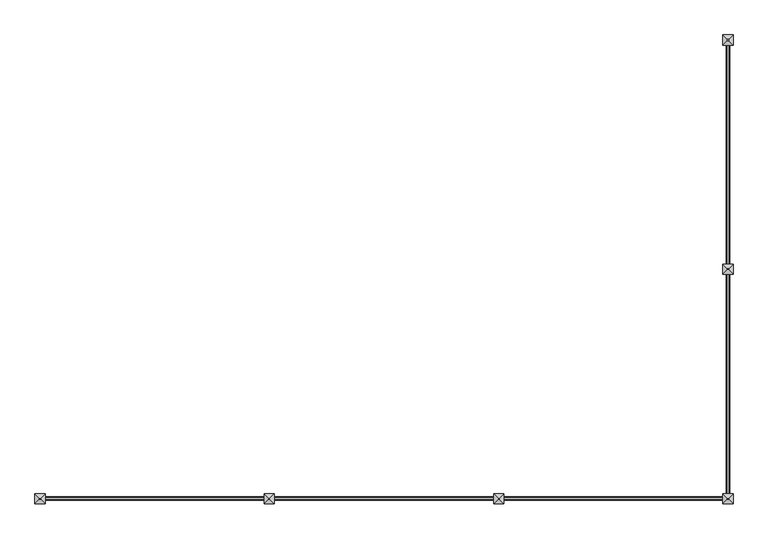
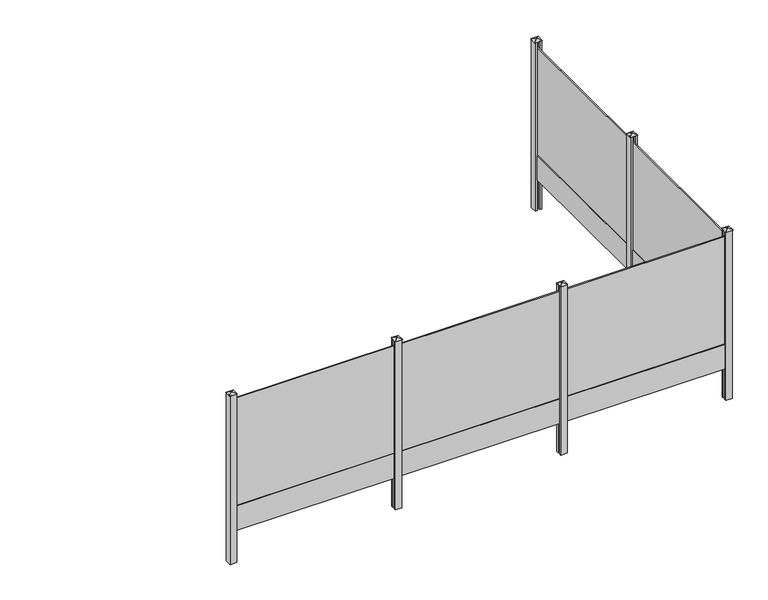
"""IFC4 building model written with IfcOpenShell, lengths in millimetres: railing geometry, Mehat - Railing - Plaque de Soubassement - Ardoise pour clôture rigide - 250x40x3.8 cm."""

from ifc_helpers import new_model, si_unit, frame, origin, origin_with_axes, place, context, project, spatial, polyline, outline, extrude, faceted_brep, source, transform, mapped, element, save


def railing_9046152f(model_context):
    return source(origin(), model_context, "Body", "SolidModel", [
        extrude(outline(polyline([(-27163.7483484, -20967.4943936), (-27180.7483484, -20967.4943936), (-27180.7483484, -18467.4943936), (-27163.7483484, -18467.4943936), (-27163.7483484, -20967.4943936)])), frame((0.0, 0.0, 400.0), z_axis=(0.0, 0.0, 1.0), x_axis=(1.0, 0.0, 0.0)), (0.0, 0.0, 1.0), 1750.0),
        extrude(outline(polyline([(-27153.2483484, -20967.4943936), (-27191.2483484, -20967.4943936), (-27191.2483484, -18467.4943936), (-27153.2483484, -18467.4943936), (-27153.2483484, -20967.4943936)])), origin_with_axes(), (0.0, 0.0, 1.0), 400.0),
        extrude(outline(polyline([(-27122.2483484, -21042.4943936), (-27153.2483484, -21042.4943936), (-27153.2483484, -21017.4943936), (-27191.2483484, -21017.4943936), (-27191.2483484, -21042.4943936), (-27222.2483484, -21042.4943936), (-27222.2483484, -20942.4943936), (-27191.2483484, -20942.4943936), (-27191.2483484, -20967.4943936), (-27153.2483484, -20967.4943936), (-27153.2483484, -20942.4943936), (-27122.2483484, -20942.4943936), (-27122.2483484, -21042.4943936)])), frame((0.0, 0.0, -500.0), z_axis=(0.0, 0.0, 1.0), x_axis=(1.0, 0.0, 0.0)), (0.0, 0.0, 1.0), 2750.0),
        faceted_brep([(-27178.6528945, -20986.1443936, 2275.4), (-27178.6528945, -20998.8443936, 2275.4), (-27165.9528945, -20998.8443936, 2275.4), (-27165.9528945, -20986.1443936, 2275.4), (-27228.5983484, -20936.1443936, 2250.0), (-27115.8983484, -20936.1443936, 2250.0), (-27115.8983484, -21048.8443936, 2250.0), (-27228.5983484, -21048.8443936, 2250.0)], [[[0, 1, 2, 3]], [[4, 5, 6, 7]], [[4, 0, 3, 5]], [[5, 3, 2, 6]], [[6, 2, 1, 7]], [[7, 1, 0, 4]]]),
        extrude(outline(polyline([(-27163.7483484, -23517.4943936), (-27180.7483484, -23517.4943936), (-27180.7483484, -21017.4943936), (-27163.7483484, -21017.4943936), (-27163.7483484, -23517.4943936)])), frame((0.0, 0.0, 400.0), z_axis=(0.0, 0.0, 1.0), x_axis=(1.0, 0.0, 0.0)), (0.0, 0.0, 1.0), 1750.0),
        extrude(outline(polyline([(-27153.2483484, -23517.4943936), (-27191.2483484, -23517.4943936), (-27191.2483484, -21017.4943936), (-27153.2483484, -21017.4943936), (-27153.2483484, -23517.4943936)])), origin_with_axes(), (0.0, 0.0, 1.0), 400.0),
        extrude(outline(polyline([(-29697.2483484, -23550.9943936), (-29697.2483484, -23533.9943936), (-27197.2483484, -23533.9943936), (-27197.2483484, -23550.9943936), (-29697.2483484, -23550.9943936)])), frame((0.0, 0.0, 400.0), z_axis=(0.0, 0.0, 1.0), x_axis=(1.0, 0.0, 0.0)), (0.0, 0.0, 1.0), 1750.0),
        extrude(outline(polyline([(-29697.2483484, -23561.4943936), (-29697.2483484, -23523.4943936), (-27197.2483484, -23523.4943936), (-27197.2483484, -23561.4943936), (-29697.2483484, -23561.4943936)])), origin_with_axes(), (0.0, 0.0, 1.0), 400.0),
        extrude(outline(polyline([(-29772.2483484, -23592.4943936), (-29772.2483484, -23561.4943936), (-29747.2483484, -23561.4943936), (-29747.2483484, -23523.4943936), (-29772.2483484, -23523.4943936), (-29772.2483484, -23492.4943936), (-29672.2483484, -23492.4943936), (-29672.2483484, -23523.4943936), (-29697.2483484, -23523.4943936), (-29697.2483484, -23561.4943936), (-29672.2483484, -23561.4943936), (-29672.2483484, -23592.4943936), (-29772.2483484, -23592.4943936)])), frame((0.0, 0.0, -500.0), z_axis=(0.0, 0.0, 1.0), x_axis=(1.0, 0.0, 0.0)), (0.0, 0.0, 1.0), 2750.0),
        faceted_brep([(-29715.8983484, -23536.0898475, 2275.4), (-29728.5983484, -23536.0898475, 2275.4), (-29728.5983484, -23548.7898475, 2275.4), (-29715.8983484, -23548.7898475, 2275.4), (-29665.8983484, -23486.1443936, 2250.0), (-29665.8983484, -23598.8443936, 2250.0), (-29778.5983484, -23598.8443936, 2250.0), (-29778.5983484, -23486.1443936, 2250.0)], [[[0, 1, 2, 3]], [[4, 5, 6, 7]], [[4, 0, 3, 5]], [[5, 3, 2, 6]], [[6, 2, 1, 7]], [[7, 1, 0, 4]]]),
        extrude(outline(polyline([(-32247.2483484, -23550.9943936), (-32247.2483484, -23533.9943936), (-29747.2483484, -23533.9943936), (-29747.2483484, -23550.9943936), (-32247.2483484, -23550.9943936)])), frame((0.0, 0.0, 400.0), z_axis=(0.0, 0.0, 1.0), x_axis=(1.0, 0.0, 0.0)), (0.0, 0.0, 1.0), 1750.0),
        extrude(outline(polyline([(-32247.2483484, -23561.4943936), (-32247.2483484, -23523.4943936), (-29747.2483484, -23523.4943936), (-29747.2483484, -23561.4943936), (-32247.2483484, -23561.4943936)])), origin_with_axes(), (0.0, 0.0, 1.0), 400.0),
        extrude(outline(polyline([(-32322.2483484, -23592.4943936), (-32322.2483484, -23561.4943936), (-32297.2483484, -23561.4943936), (-32297.2483484, -23523.4943936), (-32322.2483484, -23523.4943936), (-32322.2483484, -23492.4943936), (-32222.2483484, -23492.4943936), (-32222.2483484, -23523.4943936), (-32247.2483484, -23523.4943936), (-32247.2483484, -23561.4943936), (-32222.2483484, -23561.4943936), (-32222.2483484, -23592.4943936), (-32322.2483484, -23592.4943936)])), frame((0.0, 0.0, -500.0), z_axis=(0.0, 0.0, 1.0), x_axis=(1.0, 0.0, 0.0)), (0.0, 0.0, 1.0), 2750.0),
        faceted_brep([(-32265.8983484, -23536.0898475, 2275.4), (-32278.5983484, -23536.0898475, 2275.4), (-32278.5983484, -23548.7898475, 2275.4), (-32265.8983484, -23548.7898475, 2275.4), (-32215.8983484, -23486.1443936, 2250.0), (-32215.8983484, -23598.8443936, 2250.0), (-32328.5983484, -23598.8443936, 2250.0), (-32328.5983484, -23486.1443936, 2250.0)], [[[0, 1, 2, 3]], [[4, 5, 6, 7]], [[4, 0, 3, 5]], [[5, 3, 2, 6]], [[6, 2, 1, 7]], [[7, 1, 0, 4]]]),
        extrude(outline(polyline([(-34797.2483484, -23550.9943936), (-34797.2483484, -23533.9943936), (-32297.2483484, -23533.9943936), (-32297.2483484, -23550.9943936), (-34797.2483484, -23550.9943936)])), frame((0.0, 0.0, 400.0), z_axis=(0.0, 0.0, 1.0), x_axis=(1.0, 0.0, 0.0)), (0.0, 0.0, 1.0), 1750.0),
        extrude(outline(polyline([(-34797.2483484, -23561.4943936), (-34797.2483484, -23523.4943936), (-32297.2483484, -23523.4943936), (-32297.2483484, -23561.4943936), (-34797.2483484, -23561.4943936)])), origin_with_axes(), (0.0, 0.0, 1.0), 400.0),
        extrude(outline(polyline([(-27222.2483484, -23592.4943936), (-27222.2483484, -23561.4943936), (-27197.2483484, -23561.4943936), (-27197.2483484, -23523.4943936), (-27222.2483484, -23523.4943936), (-27222.2483484, -23492.4943936), (-27191.2483484, -23492.4943936), (-27191.2483484, -23517.4943936), (-27153.2483484, -23517.4943936), (-27153.2483484, -23492.4943936), (-27122.2483484, -23492.4943936), (-27122.2483484, -23592.4943936), (-27222.2483484, -23592.4943936)])), frame((0.0, 0.0, -500.0), z_axis=(0.0, 0.0, 1.0), x_axis=(1.0, 0.0, 0.0)), (0.0, 0.0, 1.0), 2750.0),
        faceted_brep([(-27165.8983484, -23536.0898475, 2275.4), (-27178.5983484, -23536.0898475, 2275.4), (-27178.5983484, -23548.7898475, 2275.4), (-27165.8983484, -23548.7898475, 2275.4), (-27115.8983484, -23486.1443936, 2250.0), (-27115.8983484, -23598.8443936, 2250.0), (-27228.5983484, -23598.8443936, 2250.0), (-27228.5983484, -23486.1443936, 2250.0)], [[[0, 1, 2, 3]], [[4, 5, 6, 7]], [[4, 0, 3, 5]], [[5, 3, 2, 6]], [[6, 2, 1, 7]], [[7, 1, 0, 4]]]),
        extrude(outline(polyline([(-27122.2483484, -18492.4943936), (-27153.2483484, -18492.4943936), (-27153.2483484, -18467.4943936), (-27191.2483484, -18467.4943936), (-27191.2483484, -18492.4943936), (-27222.2483484, -18492.4943936), (-27222.2483484, -18392.4943936), (-27122.2483484, -18392.4943936), (-27122.2483484, -18492.4943936)])), frame((0.0, 0.0, -500.0), z_axis=(0.0, 0.0, 1.0), x_axis=(1.0, 0.0, 0.0)), (0.0, 0.0, 1.0), 2750.0),
        faceted_brep([(-27178.6528945, -18436.1443936, 2275.4), (-27178.6528945, -18448.8443936, 2275.4), (-27165.9528945, -18448.8443936, 2275.4), (-27165.9528945, -18436.1443936, 2275.4), (-27228.5983484, -18386.1443936, 2250.0), (-27115.8983484, -18386.1443936, 2250.0), (-27115.8983484, -18498.8443936, 2250.0), (-27228.5983484, -18498.8443936, 2250.0)], [[[0, 1, 2, 3]], [[4, 5, 6, 7]], [[4, 0, 3, 5]], [[5, 3, 2, 6]], [[6, 2, 1, 7]], [[7, 1, 0, 4]]]),
        extrude(outline(polyline([(-34872.2483484, -23592.4943936), (-34872.2483484, -23492.4943936), (-34772.2483484, -23492.4943936), (-34772.2483484, -23523.4943936), (-34797.2483484, -23523.4943936), (-34797.2483484, -23561.4943936), (-34772.2483484, -23561.4943936), (-34772.2483484, -23592.4943936), (-34872.2483484, -23592.4943936)])), frame((0.0, 0.0, -500.0), z_axis=(0.0, 0.0, 1.0), x_axis=(1.0, 0.0, 0.0)), (0.0, 0.0, 1.0), 2750.0),
        faceted_brep([(-34815.8983484, -23536.0898475, 2275.4), (-34828.5983484, -23536.0898475, 2275.4), (-34828.5983484, -23548.7898475, 2275.4), (-34815.8983484, -23548.7898475, 2275.4), (-34765.8983484, -23486.1443936, 2250.0), (-34765.8983484, -23598.8443936, 2250.0), (-34878.5983484, -23598.8443936, 2250.0), (-34878.5983484, -23486.1443936, 2250.0)], [[[0, 1, 2, 3]], [[4, 5, 6, 7]], [[4, 0, 3, 5]], [[5, 3, 2, 6]], [[6, 2, 1, 7]], [[7, 1, 0, 4]]]),
    ])


if __name__ == "__main__":
    model = new_model("IFC4")
    model_context = context("Model", 3, world=origin())
    ifc_project = project(units=[si_unit("LENGTHUNIT", "METRE", prefix="MILLI")], contexts=[model_context])
    site = spatial("IfcSite", under=ifc_project)
    building = spatial("IfcBuilding", under=site)
    placement = place(None, origin())
    railing_shape = railing_9046152f(model_context)
    element("IfcRailing", 1, ObjectType="Mehat - Railing - Plaque de Soubassement - Ardoise pour clôture rigide - 250x40x3.8 cm", at=placement, inside=building, context=model_context, shape_type="MappedRepresentation", body=[
        mapped(railing_shape, transform((0.0, 0.0, 0.0), x_axis=(1.0, 0.0, 0.0), y_axis=(0.0, 1.0, 0.0), z_axis=(0.0, 0.0, 1.0))),
    ])
    save(model, "model.ifc")
